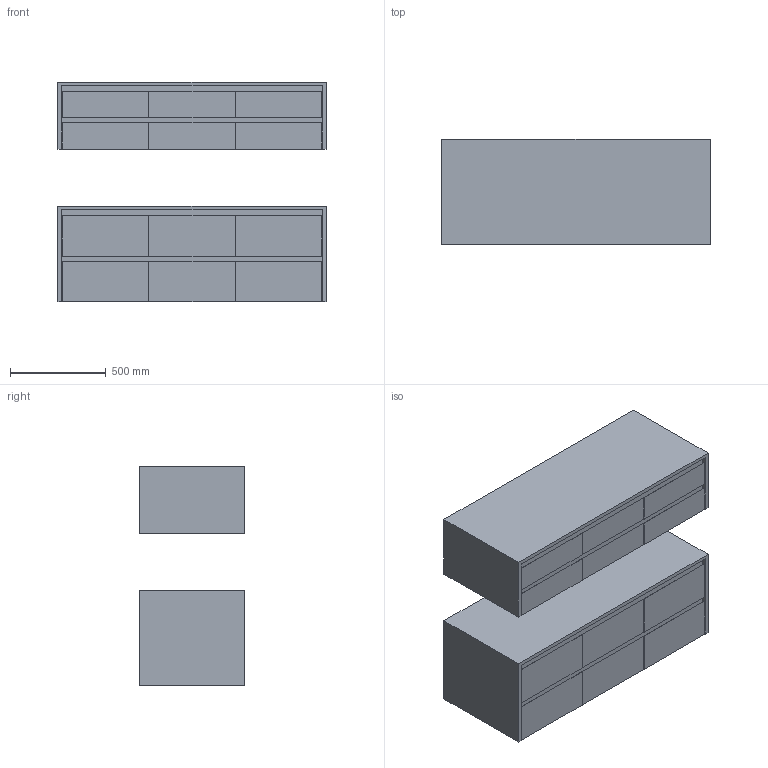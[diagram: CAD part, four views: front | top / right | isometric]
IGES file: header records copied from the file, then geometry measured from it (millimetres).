
Global section: file name: \\Archi-NAS\Comune\X GIOVANNI\MOBILI\SLIMLINE\SLIMLINE_09.igs; native system: Rhinoceros ( Feb 23 2021 ); preprocessor: Trout Lake IGES 012 Feb 23 2021; date: 230607.145008; units: millimetre
Bounding box: 1400 x 550 x 1147.79 mm (x, y, z)
Surface area: 22552882.3 mm2 (no closed solid volume)
Topology: 0 solids, 0 shells, 476 faces, 1976 edges, 1976 vertices
Faces by surface type: bspline 476
